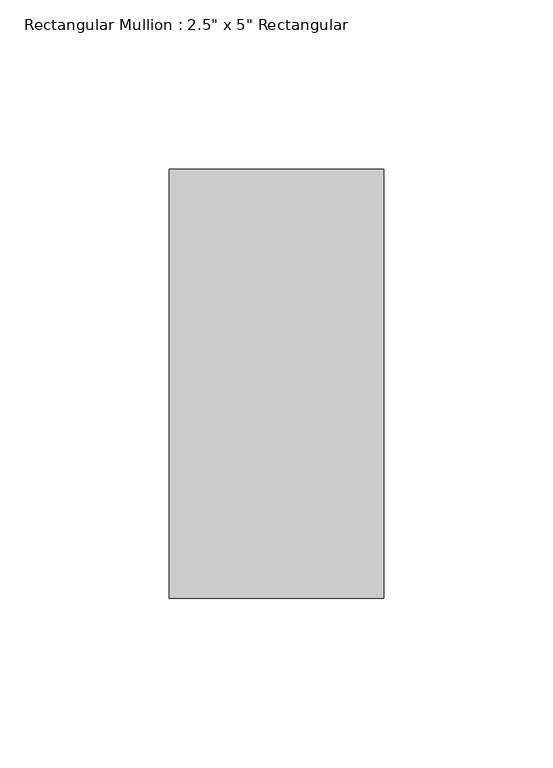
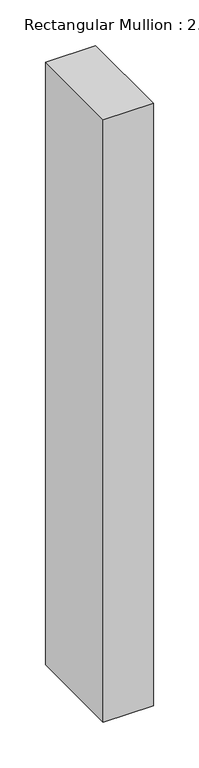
"""IFC4 building model written with IfcOpenShell, lengths in millimetres: member geometry."""

from ifc_helpers import new_model, si_unit, frame, origin, place, context, project, spatial, polyline, outline, extrude, source, transform, mapped, element, save


def member_7fd7503d(model_context):
    return source(origin(), model_context, "Body", "SweptSolid", [
        extrude(outline(polyline([(0.0, 63.5), (0.0, -63.5), (-63.5, -63.5), (-63.5, 63.5), (0.0, 63.5)])), frame((0.0, 0.0, -807.24375), z_axis=(0.0, 0.0, 1.0), x_axis=(1.0, 0.0, 0.0)), (0.0, 0.0, 1.0), 807.24375),
    ])


if __name__ == "__main__":
    model = new_model("IFC4")
    model_context = context("Model", 3, world=origin())
    ifc_project = project(units=[si_unit("LENGTHUNIT", "METRE", prefix="MILLI")], contexts=[model_context])
    site = spatial("IfcSite", under=ifc_project)
    building = spatial("IfcBuilding", under=site)
    placement = place(None, origin())
    member_shape = member_7fd7503d(model_context)
    element("IfcMember", 1, ObjectType="Rectangular Mullion : 2.5\" x 5\" Rectangular", at=placement, inside=building, context=model_context, shape_type="MappedRepresentation", body=[
        mapped(member_shape, transform((0.0, 0.0, 0.0), x_axis=(1.0, 0.0, 0.0), y_axis=(0.0, 1.0, 0.0), z_axis=(0.0, 0.0, 1.0))),
    ])
    save(model, "model.ifc")
